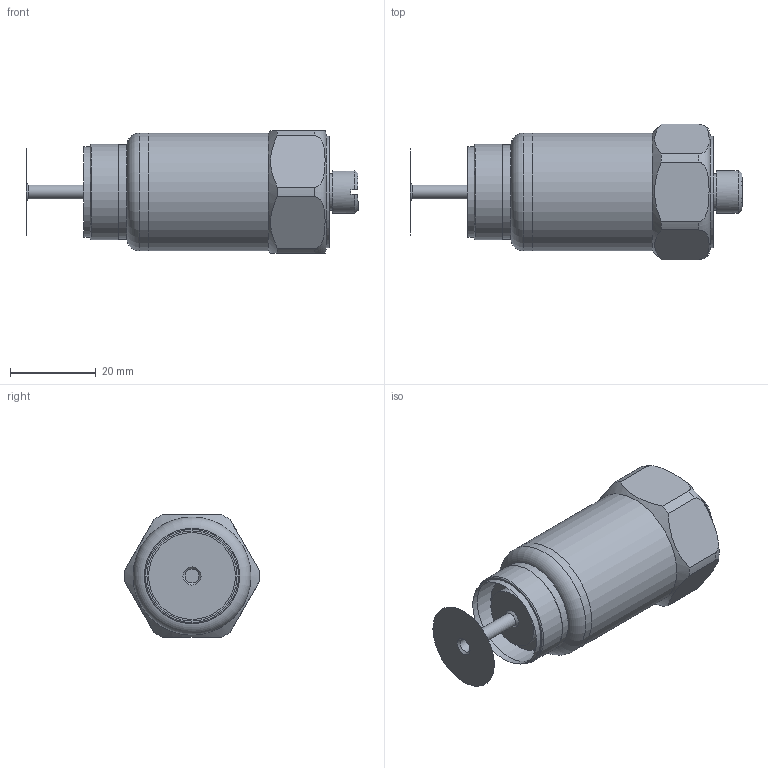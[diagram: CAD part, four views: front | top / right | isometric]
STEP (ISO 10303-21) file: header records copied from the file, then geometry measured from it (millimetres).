
FILE_DESCRIPTION(/* description */ (''),/* implementation_level */ '2;1');
FILE_NAME(/* name */ 'Z:\Engineering\Drawings\3D Library\Assemblies\Website\420 Velocity Top\HS-420XXX1210.stp',/* time_stamp */ '2023-05-03T13:54:03+01:00',/* author */ ('Ricardo.Peneda'),/* organization */ (''),/* preprocessor_version */ 'ST-DEVELOPER v18.1',/* originating_system */ 'Autodesk Inventor 2021',/* authorisation */ '');
FILE_SCHEMA (('AUTOMOTIVE_DESIGN { 1 0 10303 214 3 1 1 }'));
Length unit declared in the file: inch
Products named in the file (1): HS-420XXX1210_Shrinkwrap_1
Bounding box: 77.4 x 31.69 x 28.5 mm (x, y, z)
Volume: 18404.6 mm3; surface area: 12700.4 mm2
Topology: 4 solids, 4 shells, 76 faces, 201 edges, 146 vertices
Faces by surface type: plane 35, cylinder 27, cone 10, torus 4
Full cylindrical faces by diameter (mm): 3.241 x1, 5 x1, 6.3 x1, 6.35 x1, 7 x1, 7.5 x1, 8.5 x1, 10 x1, 14 x1, 18 x1, 19.95 x1, 20 x1, 21 x1, 22 x1, 22.2 x1, 23.3 x1, 25.3 x2, 26 x1, 27.5 x2
Entity records: 2704 total; most frequent: CARTESIAN_POINT 586, DIRECTION 457, ORIENTED_EDGE 402, EDGE_CURVE 201, AXIS2_PLACEMENT_3D 201, VERTEX_POINT 146, CIRCLE 124, EDGE_LOOP 93
